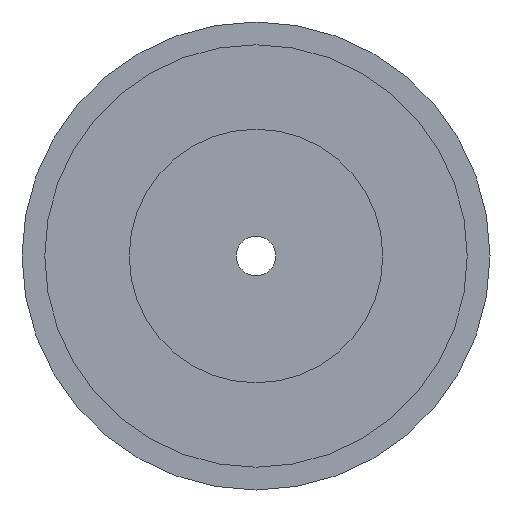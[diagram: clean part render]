
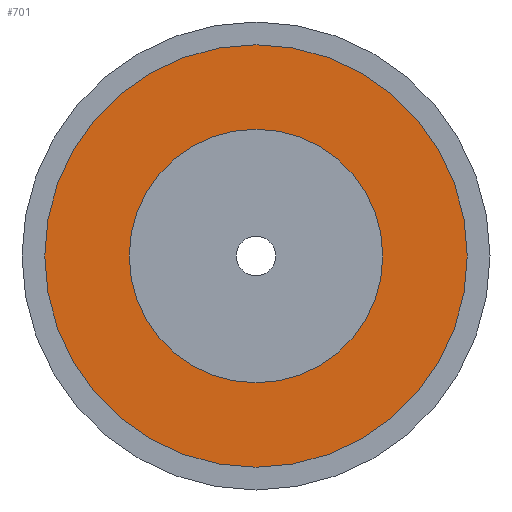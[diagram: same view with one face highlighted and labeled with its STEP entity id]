
A CAD part, left-side view. The second image highlights one B-rep face of the part: STEP entity #701.
In plain terms, the highlighted planar face has unit normal (-1, 0, 0).
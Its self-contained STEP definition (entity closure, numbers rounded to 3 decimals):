
#113=PLANE($,#789);
#134=FACE_BOUND($,#231,.T.);
#173=FACE_OUTER_BOUND($,#230,.T.);
#230=EDGE_LOOP($,(#591));
#231=EDGE_LOOP($,(#592));
#278=CIRCLE($,#788,39.);
#279=CIRCLE($,#790,65.);
#339=VERTEX_POINT($,#1196);
#340=VERTEX_POINT($,#1199);
#424=EDGE_CURVE($,#339,#339,#278,.T.);
#425=EDGE_CURVE($,#340,#340,#279,.T.);
#591=ORIENTED_EDGE($,*,*,#425,.F.);
#592=ORIENTED_EDGE($,*,*,#424,.T.);
#701=ADVANCED_FACE($,(#173,#134),#113,.T.);
#788=AXIS2_PLACEMENT_3D($,#1197,#1000,#1001);
#789=AXIS2_PLACEMENT_3D($,#1198,#1002,#1003);
#790=AXIS2_PLACEMENT_3D($,#1200,#1004,#1005);
#1000=DIRECTION('center_axis',(1.,0.,0.));
#1001=DIRECTION('ref_axis',(0.,1.,0.));
#1002=DIRECTION('center_axis',(-1.,0.,0.));
#1003=DIRECTION('ref_axis',(0.,0.,1.));
#1004=DIRECTION('center_axis',(1.,0.,0.));
#1005=DIRECTION('ref_axis',(0.,1.,0.));
#1196=CARTESIAN_POINT('',(-10.,39.,0.));
#1197=CARTESIAN_POINT('Origin',(-10.,0.,0.));
#1198=CARTESIAN_POINT('Origin',(-10.,52.,0.));
#1199=CARTESIAN_POINT('',(-10.,65.,0.));
#1200=CARTESIAN_POINT('Origin',(-10.,0.,0.));
